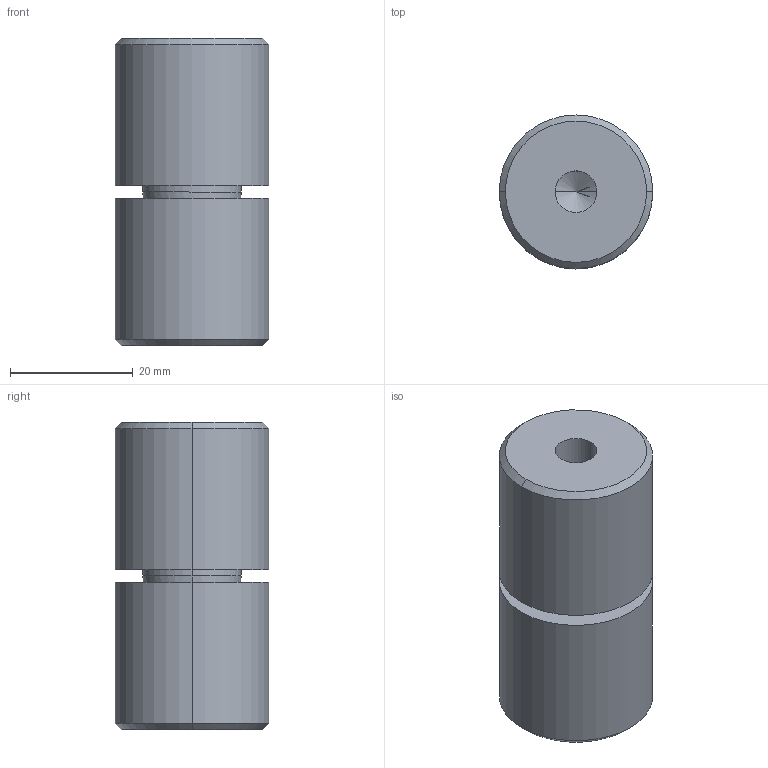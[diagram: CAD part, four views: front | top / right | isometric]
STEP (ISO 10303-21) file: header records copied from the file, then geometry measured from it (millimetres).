
FILE_DESCRIPTION (( 'STEP AP214' ), '1' );
FILE_NAME ('TPN25-3.STEP', '2024-05-28T19:37:03', ( '' ), ( '' ), 'SwSTEP 2.0', 'SolidWorks 2017', '' );
FILE_SCHEMA (( 'AUTOMOTIVE_DESIGN' ));
Length unit declared in the file: millimetre
Products named in the file (3): TPN25-3_F; TPN25-3; TPN25-3_M
Assembly tree (2 placements, depth 2):
  TPN25-3
    TPN25-3_M
    TPN25-3_F
Bounding box: 25 x 25 x 50 mm (x, y, z)
Volume: 22180.6 mm3; surface area: 7330.3 mm2
Topology: 2 solids, 2 shells, 32 faces, 64 edges, 37 vertices
Faces by surface type: cylinder 12, cone 12, plane 6, torus 2
Entity records: 978 total; most frequent: DIRECTION 174, CARTESIAN_POINT 136, ORIENTED_EDGE 124, AXIS2_PLACEMENT_3D 75, EDGE_CURVE 62, CIRCLE 38, EDGE_LOOP 37, VERTEX_POINT 37
